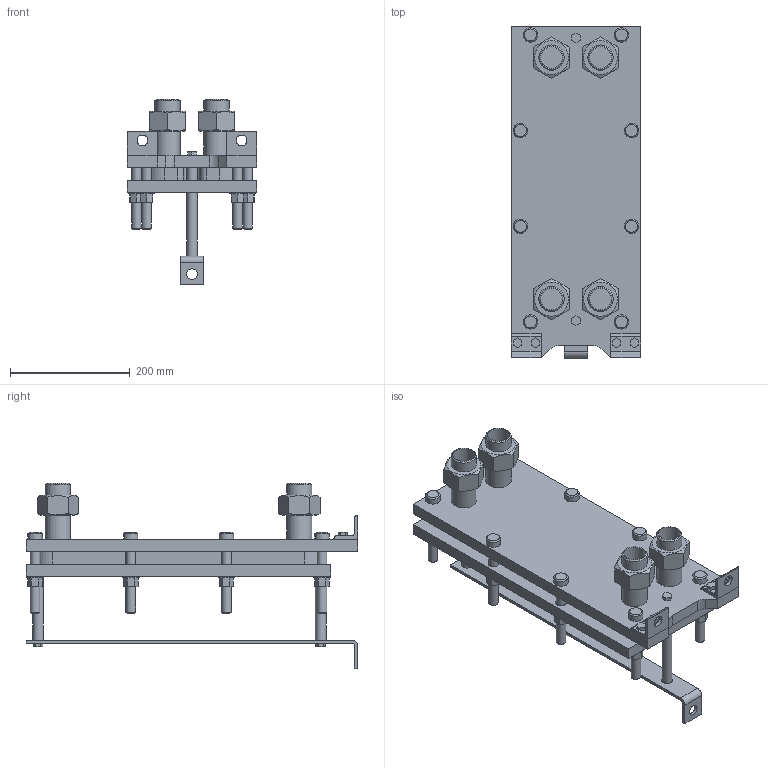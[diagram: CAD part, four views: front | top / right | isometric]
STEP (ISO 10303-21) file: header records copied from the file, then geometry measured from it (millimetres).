
FILE_DESCRIPTION(/* description */ (''),/* implementation_level */ '2;1');
FILE_NAME(/* name */ 'C:\Users\zhuro\Desktop\ENCO\TO\ЭН-004\ЭН-0,5-004-7-1.stp',/* time_stamp */ '2022-06-06T10:44:37+03:00',/* author */ ('zhuro'),/* organization */ (''),/* preprocessor_version */ 'ST-DEVELOPER v18.1',/* originating_system */ 'Autodesk Inventor 2022',/* authorisation */ '');
FILE_SCHEMA (('AUTOMOTIVE_DESIGN { 1 0 10303 214 3 1 1 }'));
Length unit declared in the file: millimetre
Products named in the file (1): ЭН-0,5-004-7-1
Bounding box: 216 x 555 x 310.6 mm (x, y, z)
Volume: 7055457.3 mm3; surface area: 1006189.6 mm2
Topology: 40 solids, 40 shells, 403 faces, 865 edges, 574 vertices
Faces by surface type: plane 272, cylinder 103, cone 28
Full cylindrical faces by diameter (mm): 10 x4, 16 x16, 18 x29, 20 x2, 24 x8, 28 x8, 36.3 x5, 42.3 x9
Entity records: 11137 total; most frequent: CARTESIAN_POINT 1939, DIRECTION 1879, ORIENTED_EDGE 1730, EDGE_CURVE 865, AXIS2_PLACEMENT_3D 658, VERTEX_POINT 574, LINE 563, VECTOR 563
